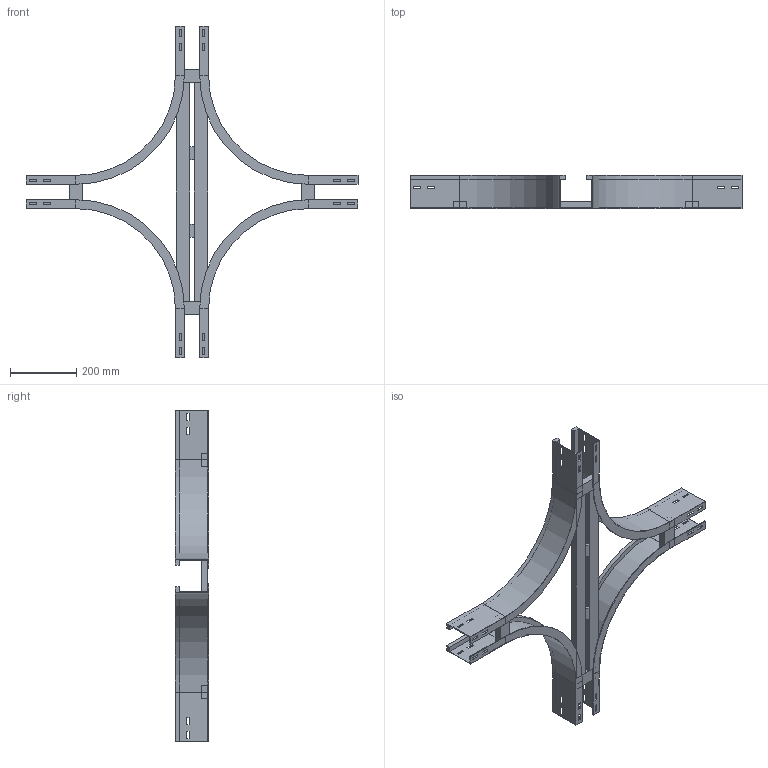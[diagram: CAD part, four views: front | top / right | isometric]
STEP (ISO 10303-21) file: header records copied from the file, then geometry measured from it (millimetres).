
FILE_DESCRIPTION (( 'STEP AP214' ), '1' );
FILE_NAME ('A2_17B3D100.step', '2025-02-21T15:54:51', ( '' ), ( '' ), 'SwSTEP 2.0', 'SolidWorks 2023', '' );
FILE_SCHEMA (( 'AUTOMOTIVE_DESIGN' ));
Length unit declared in the file: millimetre
Products named in the file (5): A2_17B3D100; TRAVERSINO_100; TRAVERSINO_INTERMEDIO_R300+100; A2_LONGH.INTERNO 90°_H100_R300; A2_TRAVERSINO_LONG._R300+100
Assembly tree (12 placements, depth 2):
  A2_17B3D100
    A2_LONGH.INTERNO 90°_H100_R300  x4
    TRAVERSINO_100  x4
    A2_TRAVERSINO_LONG._R300+100  x2
    TRAVERSINO_INTERMEDIO_R300+100  x2
Bounding box: 1000 x 100 x 1000 mm (x, y, z)
Volume: 2775300 mm3; surface area: 1111710.5 mm2
Topology: 12 solids, 12 shells, 280 faces, 704 edges, 448 vertices
Faces by surface type: plane 264, cylinder 16
Entity records: 2442 total; most frequent: CARTESIAN_POINT 399, DIRECTION 378, ORIENTED_EDGE 376, EDGE_CURVE 188, LINE 180, VECTOR 180, VERTEX_POINT 120, AXIS2_PLACEMENT_3D 99
